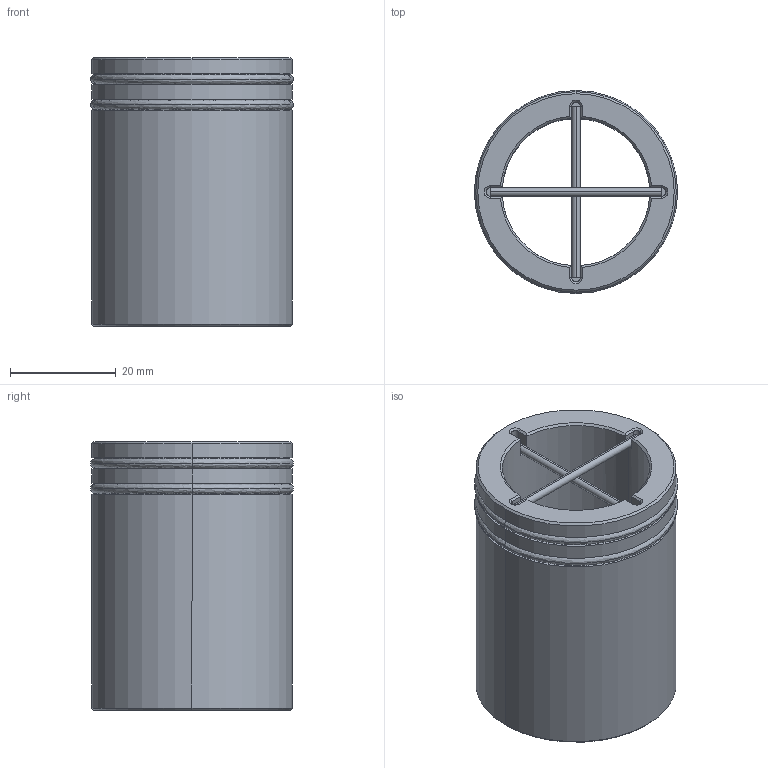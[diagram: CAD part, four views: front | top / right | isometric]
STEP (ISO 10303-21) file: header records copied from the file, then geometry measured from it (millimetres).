
FILE_DESCRIPTION (( 'STEP AP214' ), '1' );
FILE_NAME ('TGT-38.STEP', '2013-06-05T13:25:26', ( 'Eng-4' ), ( 'Hewlett-Packard Company' ), 'SwSTEP 2.0', 'SolidWorks 2013', '' );
FILE_SCHEMA (( 'AUTOMOTIVE_DESIGN' ));
Length unit declared in the file: inch
Products named in the file (1): TGT-38
Bounding box: 38.46 x 38.46 x 50.8 mm (x, y, z)
Volume: 26289.2 mm3; surface area: 13866 mm2
Topology: 5 solids, 5 shells, 74 faces, 163 edges, 99 vertices
Faces by surface type: plane 30, cylinder 21, cone 15, bspline 8
Entity records: 2230 total; most frequent: CARTESIAN_POINT 481, DIRECTION 372, ORIENTED_EDGE 326, EDGE_CURVE 163, AXIS2_PLACEMENT_3D 150, VERTEX_POINT 99, CIRCLE 83, EDGE_LOOP 80
